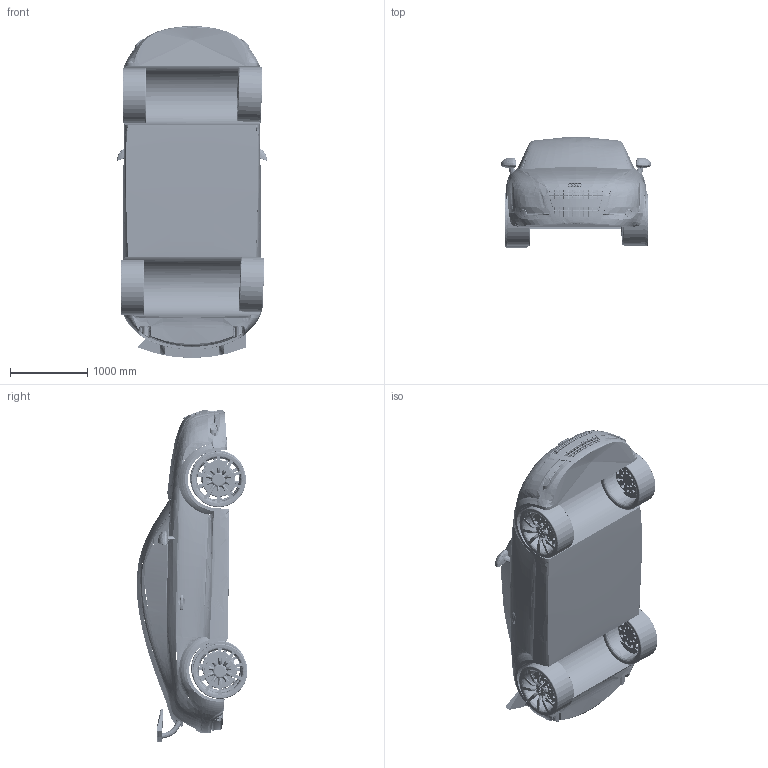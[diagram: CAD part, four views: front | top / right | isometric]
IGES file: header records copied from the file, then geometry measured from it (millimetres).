
Start section: SolidWorks IGES file using analytic representation for surfaces
Global section: file name: C:\Users\Venkat\Desktop\Assem1.IGS; native system: SolidWorks 2011; preprocessor: SolidWorks 2011; author: Venkat; date: 120120.193123; units: millimetre
Bounding box: 1940.7 x 1432.09 x 4288.57 mm (x, y, z)
Surface area: 34914314.9 mm2 (no closed solid volume)
Topology: 0 solids, 0 shells, 1509 faces, 45936 edges, 45941 vertices
Faces by surface type: bspline 928, revolution 581
